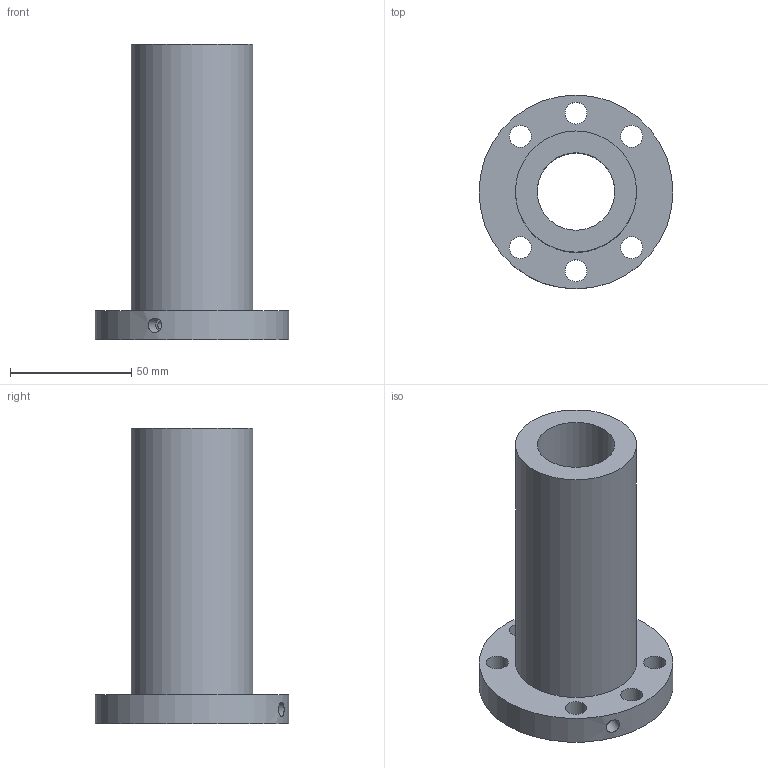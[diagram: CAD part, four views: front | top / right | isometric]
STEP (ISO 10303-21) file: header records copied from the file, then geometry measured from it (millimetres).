
FILE_DESCRIPTION(/* description */ (''),/* implementation_level */ '2;1');
FILE_NAME(/* name */ '32-8K5_3969',/* time_stamp */ '2007-10-15T12:53:59+08:00',/* author */ (''),/* organization */ (''),/* preprocessor_version */ 'ST-DEVELOPER v11',/* originating_system */ 'UGS - NX 5.0',/* authorisation */ '');
FILE_SCHEMA (('CONFIG_CONTROL_DESIGN'));
Length unit declared in the file: millimetre
Products named in the file (1): 32-8K5_3969
Bounding box: 80 x 80 x 122 mm (x, y, z)
Volume: 173177.7 mm3; surface area: 42602.8 mm2
Topology: 1 solids, 1 shells, 15 faces, 34 edges, 23 vertices
Faces by surface type: cylinder 11, plane 4
Full cylindrical faces by diameter (mm): 4 x1, 6 x1, 9 x6, 32 x1, 50 x1, 80 x1
Entity records: 600 total; most frequent: CARTESIAN_POINT 174, DIRECTION 72, FACE_BOUND 44, EDGE_LOOP 44, ORIENTED_EDGE 44, AXIS2_PLACEMENT_3D 36, VERTEX_POINT 22, EDGE_CURVE 22
